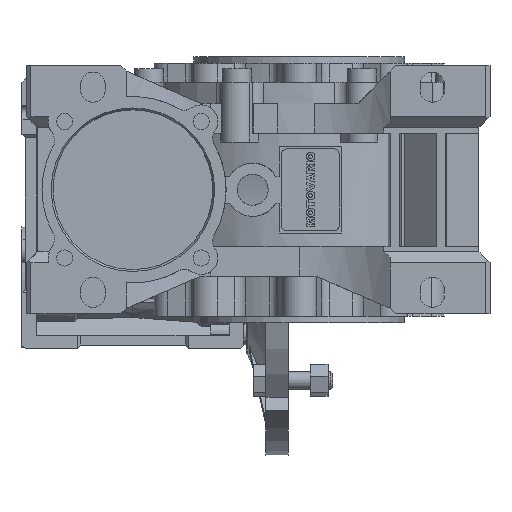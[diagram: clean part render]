
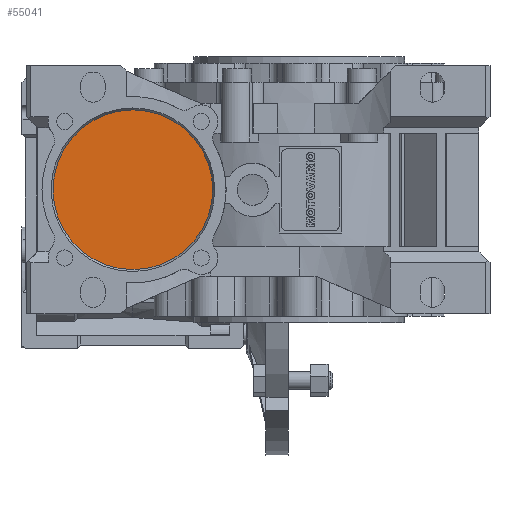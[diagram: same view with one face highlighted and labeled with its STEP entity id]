
A CAD part, left-side view. The second image highlights one B-rep face of the part: STEP entity #55041.
In plain terms, the highlighted planar face has unit normal (-1, 0, 0) as drawn and (0, 0, -1) by its records, which use the part's own axes.
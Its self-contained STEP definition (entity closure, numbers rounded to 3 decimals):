
#758=PLANE('',#58090);
#9995=CIRCLE('',#58089,36.);
#14900=ORIENTED_EDGE('',*,*,#25078,.F.);
#25078=EDGE_CURVE('',#30354,#30354,#9995,.T.);
#30354=VERTEX_POINT('',#77816);
#33650=EDGE_LOOP('',(#14900));
#36339=FACE_BOUND('',#33650,.T.);
#55041=ADVANCED_FACE('',(#36339),#758,.T.);
#58089=AXIS2_PLACEMENT_3D('',#77815,#64954,#64955);
#58090=AXIS2_PLACEMENT_3D('',#77817,#64956,#64957);
#64954=DIRECTION('',(0.,0.,1.));
#64955=DIRECTION('',(1.,0.,0.));
#64956=DIRECTION('',(0.,0.,-1.));
#64957=DIRECTION('',(-1.,0.,0.));
#77815=CARTESIAN_POINT('',(0.,75.,-87.5));
#77816=CARTESIAN_POINT('',(36.,75.,-87.5));
#77817=CARTESIAN_POINT('',(36.,75.,-87.5));
